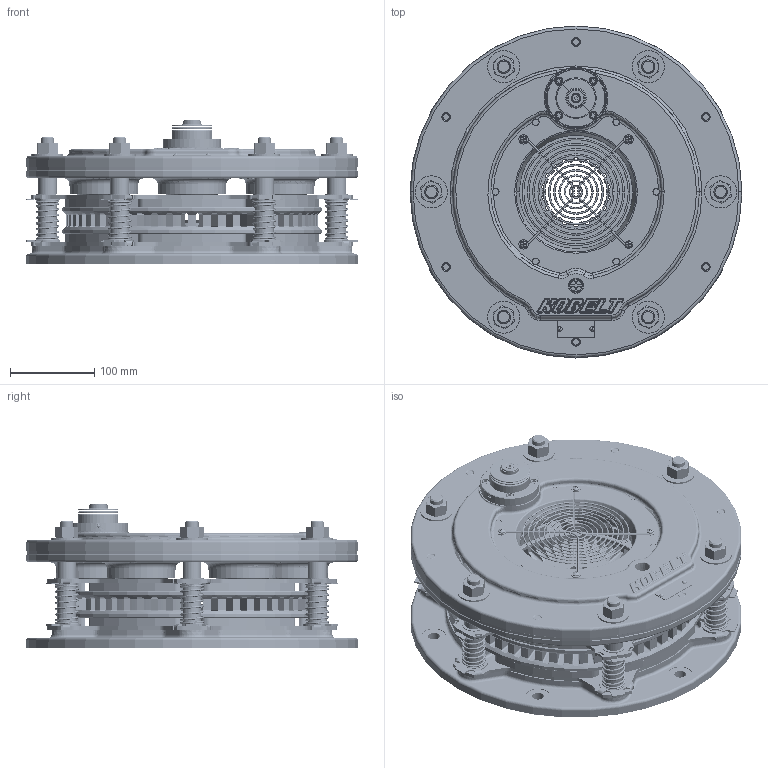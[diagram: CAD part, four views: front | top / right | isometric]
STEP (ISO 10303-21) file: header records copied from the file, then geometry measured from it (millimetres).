
FILE_DESCRIPTION (( 'STEP AP214' ), '1' );
FILE_NAME ('5412-A-D.STEP', '2020-09-02T17:57:19', ( '' ), ( '' ), 'SwSTEP 2.0', 'SolidWorks 2019', '' );
FILE_SCHEMA (( 'AUTOMOTIVE_DESIGN' ));
Length unit declared in the file: inch
Products named in the file (2): 5412-A-D
Bounding box: 393.5 x 393.5 x 171.5 mm (x, y, z)
Surface area: 1554700.1 mm2 (no closed solid volume)
Topology: 0 solids, 148 shells, 2793 faces, 9143 edges, 6135 vertices
Faces by surface type: cylinder 1000, plane 938, cone 359, torus 270, bspline 207, sphere 19
Entity records: 177005 total; most frequent: CARTESIAN_POINT 62912, DIRECTION 16198, ORIENTED_EDGE 15556, EDGE_CURVE 9118, AXIS2_PLACEMENT_3D 6295, VERTEX_POINT 6135, CIRCLE 3707, VECTOR 3608
